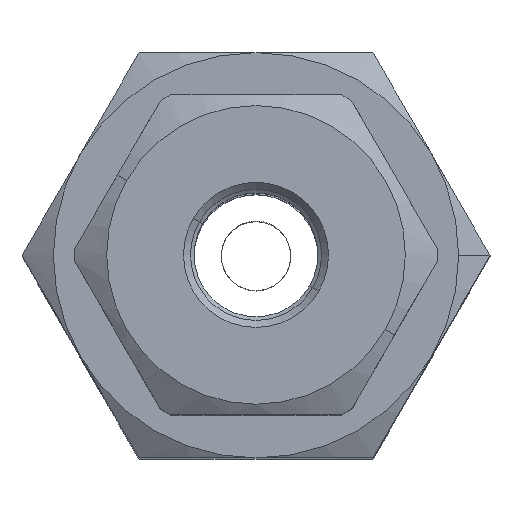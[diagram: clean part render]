
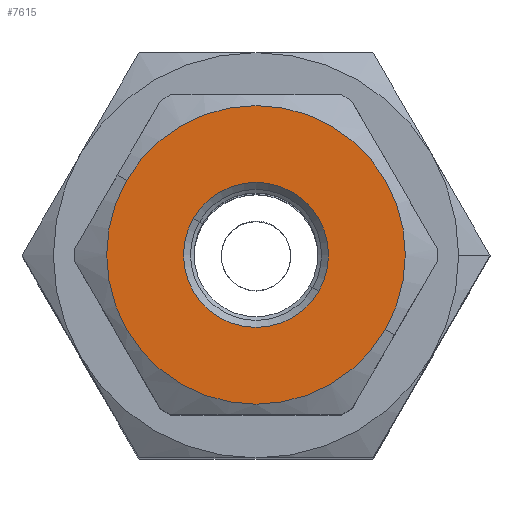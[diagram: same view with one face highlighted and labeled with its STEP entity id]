
A CAD part, top view. The second image highlights one B-rep face of the part: STEP entity #7615.
In plain terms, the highlighted planar face has unit normal (0, 0, 1).
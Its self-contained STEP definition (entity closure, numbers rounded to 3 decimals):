
#1852 = VERTEX_POINT ( 'NONE', #13527 ) ;
#1876 = EDGE_CURVE ( 'NONE', #1852, #3365, #11059, .T. ) ;
#2052 = FACE_OUTER_BOUND ( 'NONE', #15443, .T. ) ;
#2292 = DIRECTION ( 'NONE',  ( 0., 0., 1. ) ) ;
#2858 = CARTESIAN_POINT ( 'NONE',  ( -12.124, 7., 60. ) ) ;
#3365 = VERTEX_POINT ( 'NONE', #12853 ) ;
#4082 = VERTEX_POINT ( 'NONE', #2858 ) ;
#4568 = AXIS2_PLACEMENT_3D ( 'NONE', #16932, #14294, #15797 ) ;
#4666 = CIRCLE ( 'NONE', #10795, 14. ) ;
#6190 = EDGE_CURVE ( 'NONE', #12799, #4082, #9411, .T. ) ;
#6234 = EDGE_CURVE ( 'NONE', #4082, #12799, #4666, .T. ) ;
#6616 = EDGE_CURVE ( 'NONE', #3365, #1852, #9790, .T. ) ;
#7273 = DIRECTION ( 'NONE',  ( 0.866, -0.5, 0. ) ) ;
#7297 = DIRECTION ( 'NONE',  ( 0., 0., -1. ) ) ;
#7352 = CARTESIAN_POINT ( 'NONE',  ( 0., 0., 60. ) ) ;
#7615 = ADVANCED_FACE ( 'NONE', ( #15924, #2052 ), #11592, .T. ) ;
#7909 = AXIS2_PLACEMENT_3D ( 'NONE', #13170, #13029, #13033 ) ;
#8142 = ORIENTED_EDGE ( 'NONE', *, *, #6234, .T. ) ;
#9411 = CIRCLE ( 'NONE', #4568, 14. ) ;
#9790 = CIRCLE ( 'NONE', #14649, 6.8 ) ;
#10279 = CARTESIAN_POINT ( 'NONE',  ( 12.124, -7., 60. ) ) ;
#10280 = CARTESIAN_POINT ( 'NONE',  ( 0., 0., 60. ) ) ;
#10373 = AXIS2_PLACEMENT_3D ( 'NONE', #10280, #2292, #11641 ) ;
#10795 = AXIS2_PLACEMENT_3D ( 'NONE', #16162, #15930, #12198 ) ;
#10877 = ORIENTED_EDGE ( 'NONE', *, *, #1876, .T. ) ;
#11059 = CIRCLE ( 'NONE', #7909, 6.8 ) ;
#11592 = PLANE ( 'NONE',  #10373 ) ;
#11641 = DIRECTION ( 'NONE',  ( 0.866, -0.5, 0. ) ) ;
#11703 = ORIENTED_EDGE ( 'NONE', *, *, #6616, .T. ) ;
#12198 = DIRECTION ( 'NONE',  ( 0.866, -0.5, 0. ) ) ;
#12799 = VERTEX_POINT ( 'NONE', #10279 ) ;
#12853 = CARTESIAN_POINT ( 'NONE',  ( 5.889, -3.4, 60. ) ) ;
#13029 = DIRECTION ( 'NONE',  ( 0., 0., -1. ) ) ;
#13033 = DIRECTION ( 'NONE',  ( 0.866, -0.5, 0. ) ) ;
#13170 = CARTESIAN_POINT ( 'NONE',  ( 0., 0., 60. ) ) ;
#13527 = CARTESIAN_POINT ( 'NONE',  ( -5.889, 3.4, 60. ) ) ;
#14294 = DIRECTION ( 'NONE',  ( 0., 0., 1. ) ) ;
#14649 = AXIS2_PLACEMENT_3D ( 'NONE', #7352, #7297, #7273 ) ;
#14988 = EDGE_LOOP ( 'NONE', ( #11703, #10877 ) ) ;
#15443 = EDGE_LOOP ( 'NONE', ( #8142, #16840 ) ) ;
#15797 = DIRECTION ( 'NONE',  ( 0.866, -0.5, 0. ) ) ;
#15924 = FACE_BOUND ( 'NONE', #14988, .T. ) ;
#15930 = DIRECTION ( 'NONE',  ( 0., 0., 1. ) ) ;
#16162 = CARTESIAN_POINT ( 'NONE',  ( 0., 0., 60. ) ) ;
#16840 = ORIENTED_EDGE ( 'NONE', *, *, #6190, .T. ) ;
#16932 = CARTESIAN_POINT ( 'NONE',  ( 0., 0., 60. ) ) ;
